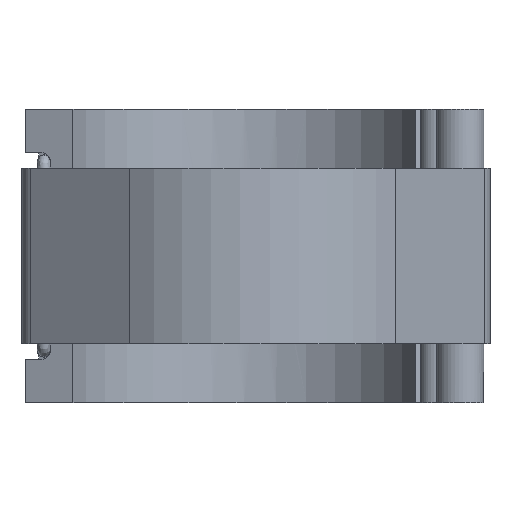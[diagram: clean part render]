
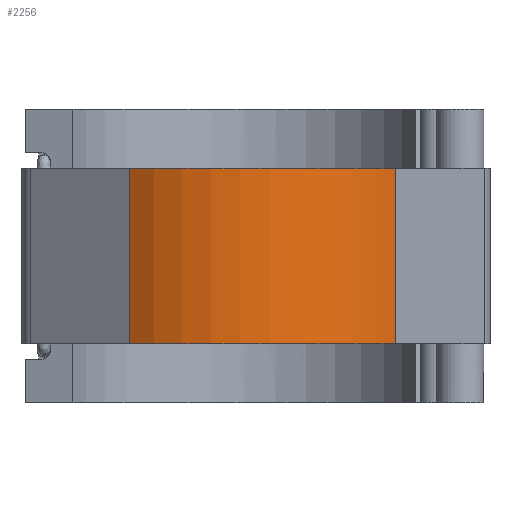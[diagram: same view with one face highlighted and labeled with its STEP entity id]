
A CAD part, front view. The second image highlights one B-rep face of the part: STEP entity #2256.
In plain terms, the highlighted cylindrical face has radius 112.63 mm (diameter 225.261 mm), a partial arc.
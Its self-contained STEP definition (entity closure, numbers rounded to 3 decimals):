
#216=FACE_OUTER_BOUND('',#351,.T.);
#351=EDGE_LOOP('',(#1991,#1992,#1993,#1994));
#447=CIRCLE('',#2420,112.631);
#453=CIRCLE('',#2427,112.631);
#703=LINE('',#4133,#891);
#708=LINE('',#4141,#896);
#891=VECTOR('',#3103,10.);
#896=VECTOR('',#3114,10.);
#1022=VERTEX_POINT('',#3820);
#1023=VERTEX_POINT('',#3822);
#1029=VERTEX_POINT('',#3839);
#1030=VERTEX_POINT('',#3841);
#1275=EDGE_CURVE('',#1022,#1023,#447,.T.);
#1286=EDGE_CURVE('',#1029,#1030,#453,.T.);
#1403=EDGE_CURVE('',#1029,#1023,#703,.T.);
#1408=EDGE_CURVE('',#1022,#1030,#708,.T.);
#1991=ORIENTED_EDGE('',*,*,#1408,.T.);
#1992=ORIENTED_EDGE('',*,*,#1286,.F.);
#1993=ORIENTED_EDGE('',*,*,#1403,.T.);
#1994=ORIENTED_EDGE('',*,*,#1275,.F.);
#2144=CYLINDRICAL_SURFACE('',#2500,112.631);
#2256=ADVANCED_FACE('',(#216),#2144,.T.);
#2420=AXIS2_PLACEMENT_3D('',#3823,#2862,#2863);
#2427=AXIS2_PLACEMENT_3D('',#3842,#2881,#2882);
#2500=AXIS2_PLACEMENT_3D('',#4142,#3115,#3116);
#2862=DIRECTION('center_axis',(0.,0.,-1.));
#2863=DIRECTION('ref_axis',(0.611,0.791,0.));
#2881=DIRECTION('center_axis',(0.,0.,1.));
#2882=DIRECTION('ref_axis',(0.611,0.791,0.));
#3103=DIRECTION('',(0.,0.,-1.));
#3114=DIRECTION('',(0.,0.,1.));
#3115=DIRECTION('center_axis',(0.,0.,1.));
#3116=DIRECTION('ref_axis',(0.611,0.791,0.));
#3820=CARTESIAN_POINT('',(90.785,-66.661,-52.807));
#3822=CARTESIAN_POINT('',(-68.871,-89.121,-52.807));
#3823=CARTESIAN_POINT('Origin',(0.,0.,
-52.807));
#3839=CARTESIAN_POINT('',(-68.871,-89.121,52.807));
#3841=CARTESIAN_POINT('',(90.785,-66.661,52.807));
#3842=CARTESIAN_POINT('Origin',(0.,0.,
52.807));
#4133=CARTESIAN_POINT('',(-68.871,-89.121,0.));
#4141=CARTESIAN_POINT('',(90.785,-66.661,0.));
#4142=CARTESIAN_POINT('Origin',(0.,0.,
0.));
